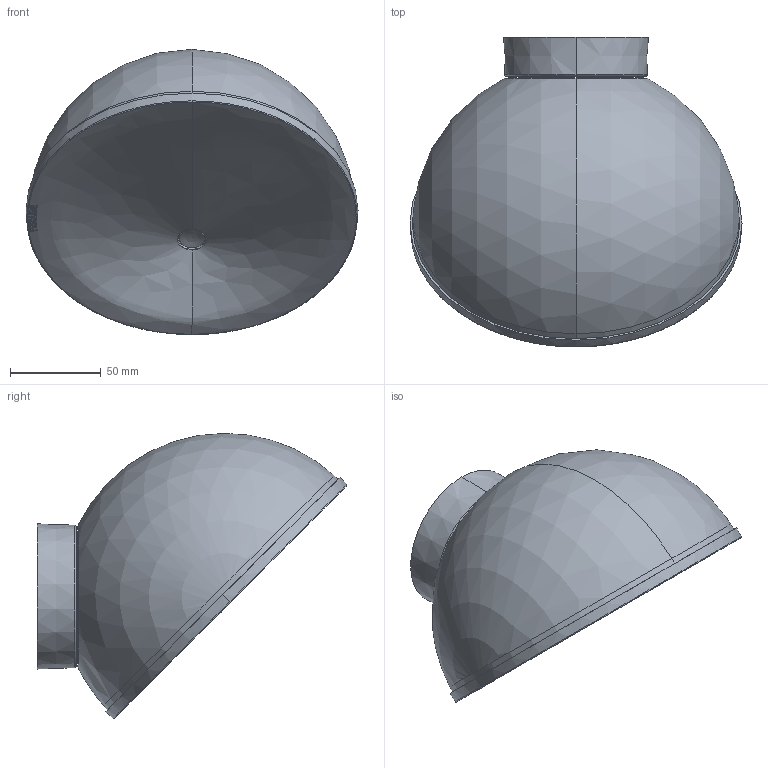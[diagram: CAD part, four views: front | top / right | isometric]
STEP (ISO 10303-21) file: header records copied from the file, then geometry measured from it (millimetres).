
FILE_DESCRIPTION (( 'STEP AP203' ), '1' );
FILE_NAME ('BEEP PARETE.STEP', '2020-02-06T14:11:48', ( '' ), ( '' ), 'SwSTEP 2.0', 'SolidWorks 2020', '' );
FILE_SCHEMA (( 'CONFIG_CONTROL_DESIGN' ));
Length unit declared in the file: millimetre
Products named in the file (5): 299M20; 299P12; 299D01; BEEP PARETE; 299P11
Assembly tree (4 placements, depth 2):
  BEEP PARETE
    299M20
    299P11
    299P12
    299D01
Bounding box: 183 x 170.82 x 157.21 mm (x, y, z)
Volume: 240747 mm3; surface area: 175404.3 mm2
Topology: 4 solids, 4 shells, 382 faces, 969 edges, 602 vertices
Faces by surface type: bspline 118, plane 105, cone 68, torus 42, cylinder 38, sphere 11
Entity records: 31724 total; most frequent: CARTESIAN_POINT 23002, ORIENTED_EDGE 1920, DIRECTION 1422, EDGE_CURVE 960, VERTEX_POINT 600, AXIS2_PLACEMENT_3D 588, EDGE_LOOP 418, FACE_OUTER_BOUND 382
